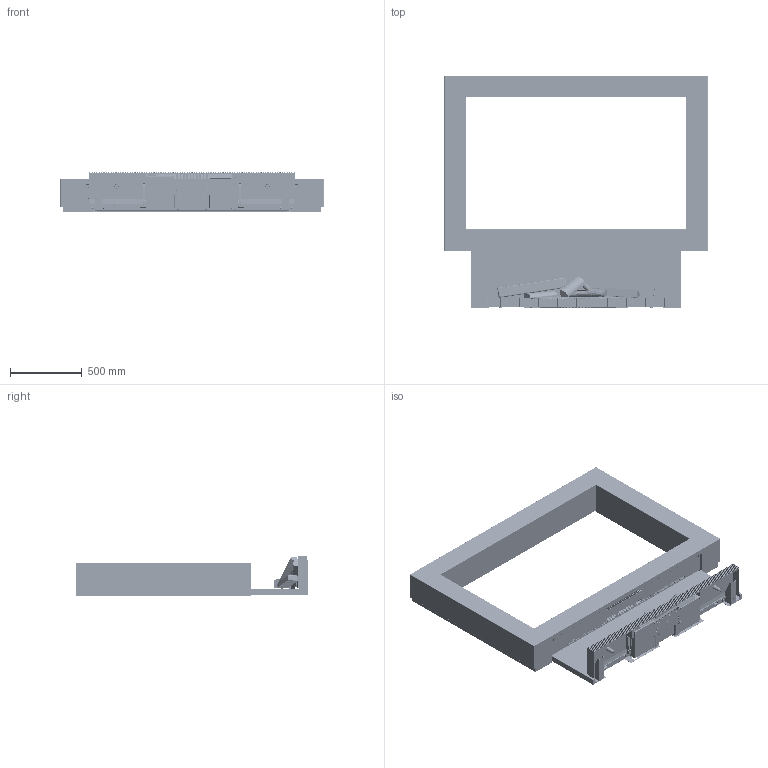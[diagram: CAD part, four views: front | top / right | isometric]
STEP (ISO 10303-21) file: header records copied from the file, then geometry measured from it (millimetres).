
FILE_DESCRIPTION (( 'STEP AP203' ), '1' );
FILE_NAME ('E Series E65 Media Wall.STEP', '2024-03-12T11:32:38', ( '' ), ( '' ), 'SwSTEP 2.0', 'SolidWorks 2020', '' );
FILE_SCHEMA (( 'CONFIG_CONTROL_DESIGN' ));
Length unit declared in the file: millimetre
Products named in the file (88): KF01932_Phoenix 3273272; KF05924; KF06239; KF05849; KF06459; KF05846; KF01931_Phoenix 3273274; KF06109; KF00591_Phoenix 3274056; KF06683_Built in; KF05976; KF06603; KF06124; KF06681; KF06717_Left - Bend ; KF06372; KF05934_Built in; KF05865_Meanwell LRS-100-12; KF05879; KF06219; KF05961; KF05928; KF05900; KF05869; KF05861; KF05883; KF05932; KF06545; KF05901; KF06374; KF05910; KF06113; KF05977; KF05847; KF04221; KF04164; KF06148_Built in ; KF05870; KF06550; KF04020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
Assembly tree (222 placements, depth 6):
  E Series E65 Media Wall
    KF05881_Inschijner
      KF05976
      KF06112
        KF05883
        KF06109
      KF06113
        KF05884
        KF06109
      KF06679  x2
    KF05923
    KF05915  x2
    KF04164  x6
    KF06219
      KF06372
        KF05932
          KF05927
          KF04020  x5
          KF04060  x4
        KF05930  x2
          KF05924
          KF04020
        KF05910
          KF05901
          KF04079  x2
          KF04020  x3
        KF05909
          KF05900
          KF04079  x2
          KF04020  x3
        KF05934_Built in
          KF06148_Built in 
          KF04020  x2
          KF04060  x4
        KF05928
        KF05846  x2
          KF05847
          KF06057
          KF04020
          KF06545
        KF06370
          KF06369
          KF04020
        KF06368
          KF06364
          KF04020
        KF06124
        KF06125
        KF06460  x2
        KF06681
          KF06683_Built in
          KF06684_Built in
          KF06717_Left - Bend 
          KF06717_Right - Bend
      KF05972
        KF05844
          KF05845
          KF04895  x5
        KF05849
      KF05969_ISO 14579 M6 x 10 - 10N[Galvanized]  x2
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Bounding box: 1830 x 1619.11 x 280.5 mm (x, y, z)
Volume: 69707311.7 mm3; surface area: 16595545.2 mm2
Topology: 217 solids, 267 shells, 18088 faces, 47096 edges, 29805 vertices
Faces by surface type: plane 11770, cylinder 4258, cone 1524, bspline 281, torus 189, sphere 66
Entity records: 439925 total; most frequent: CARTESIAN_POINT 108084, ORIENTED_EDGE 67466, DIRECTION 64105, EDGE_CURVE 33733, VECTOR 25663, LINE 25663, VERTEX_POINT 21365, AXIS2_PLACEMENT_3D 19221
